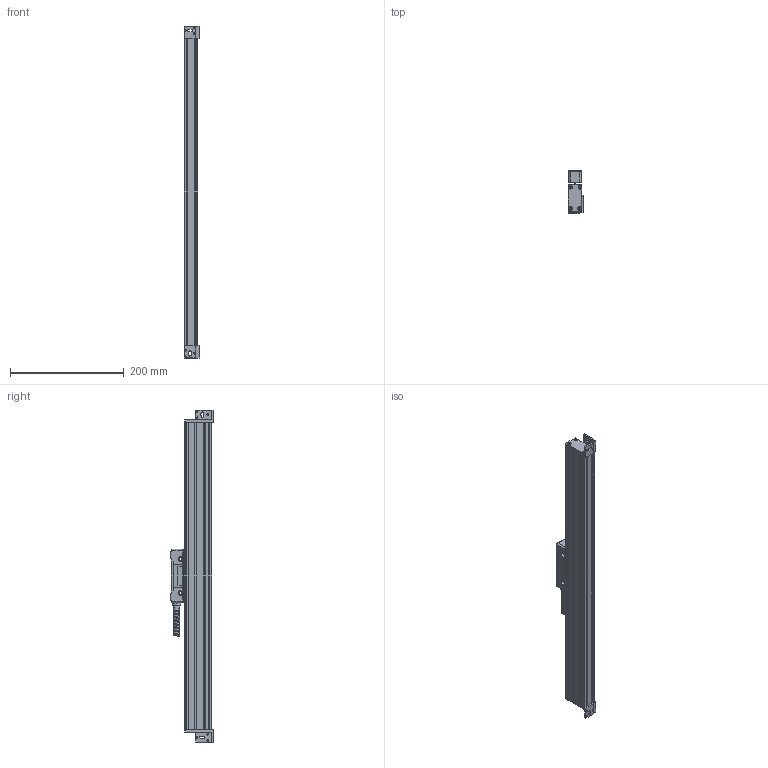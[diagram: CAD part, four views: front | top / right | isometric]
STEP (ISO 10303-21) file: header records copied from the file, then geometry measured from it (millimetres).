
FILE_DESCRIPTION (( 'STEP AP214' ), '1' );
FILE_NAME ('MLC310x0420.STEP', '2021-05-08T11:49:07', ( '' ), ( '' ), 'SwSTEP 2.0', 'SolidWorks 2014', '' );
FILE_SCHEMA (( 'AUTOMOTIVE_DESIGN' ));
Length unit declared in the file: millimetre
Products named in the file (1): MLC310x0420
Bounding box: 27 x 75.15 x 584 mm (x, y, z)
Surface area: 113409.8 mm2 (no closed solid volume)
Topology: 0 solids, 21 shells, 454 faces, 1698 edges, 1248 vertices
Faces by surface type: plane 188, cylinder 145, cone 79, bspline 32, torus 10
Entity records: 33744 total; most frequent: CARTESIAN_POINT 14511, DIRECTION 2909, ORIENTED_EDGE 2791, EDGE_CURVE 1692, VERTEX_POINT 1248, AXIS2_PLACEMENT_3D 1012, VECTOR 885, LINE 885
